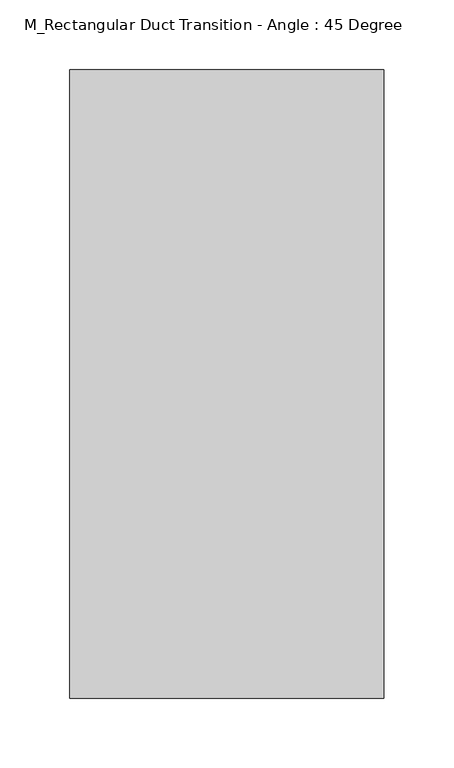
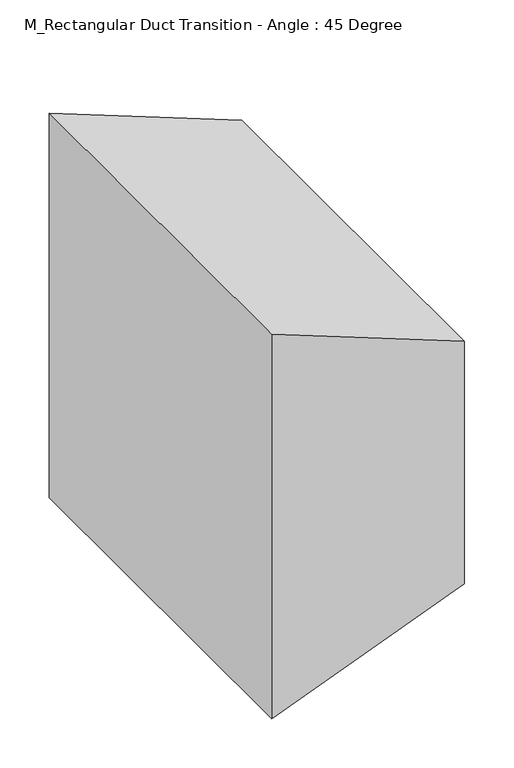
"""IFC4 building model written with IfcOpenShell, lengths in millimetres: duct fitting geometry, M_Rectangular Duct Transition - Angle : 45 Degree."""

from ifc_helpers import new_model, si_unit, frame, origin, place, context, project, spatial, polyline, outline, extrude, source, transform, mapped, element, save


def m_rectangular_duct_transition_angle_45_degree_b41f6140(model_context):
    return source(origin(), model_context, "Body", "SweptSolid", [
        extrude(outline(polyline([(237.5, 0.0), (-237.5, 0.0), (-150.0, 225.0), (150.0, 225.0), (237.5, 0.0)])), frame((0.0, -225.0, 0.0), z_axis=(0.0, 1.0, 0.0), x_axis=(0.0, 0.0, 1.0)), (0.0, 0.0, 1.0), 450.0),
        extrude(outline(polyline([(237.5, 0.0), (-237.5, 0.0), (-150.0, 225.0), (150.0, 225.0), (237.5, 0.0)])), frame((0.0, -225.0, 0.0), z_axis=(0.0, 1.0, 0.0), x_axis=(0.0, 0.0, 1.0)), (0.0, 0.0, 1.0), 450.0),
        extrude(outline(polyline([(237.5, 0.0), (-237.5, 0.0), (-150.0, 225.0), (150.0, 225.0), (237.5, 0.0)])), frame((0.0, -225.0, 0.0), z_axis=(0.0, 1.0, 0.0), x_axis=(0.0, 0.0, 1.0)), (0.0, 0.0, 1.0), 450.0),
    ])


if __name__ == "__main__":
    model = new_model("IFC4")
    model_context = context("Model", 3, world=origin())
    ifc_project = project(units=[si_unit("LENGTHUNIT", "METRE", prefix="MILLI")], contexts=[model_context])
    site = spatial("IfcSite", under=ifc_project)
    building = spatial("IfcBuilding", under=site)
    placement = place(None, origin())
    m_rectangular_duct_transition_angle_45_degree_shape = m_rectangular_duct_transition_angle_45_degree_b41f6140(model_context)
    element("IfcDuctFitting", 1, ObjectType="M_Rectangular Duct Transition - Angle : 45 Degree", at=placement, inside=building, context=model_context, shape_type="MappedRepresentation", body=[
        mapped(m_rectangular_duct_transition_angle_45_degree_shape, transform((0.0, 0.0, 0.0), x_axis=(1.0, 0.0, 0.0), y_axis=(0.0, 1.0, 0.0), z_axis=(0.0, 0.0, 1.0))),
    ])
    save(model, "model.ifc")
